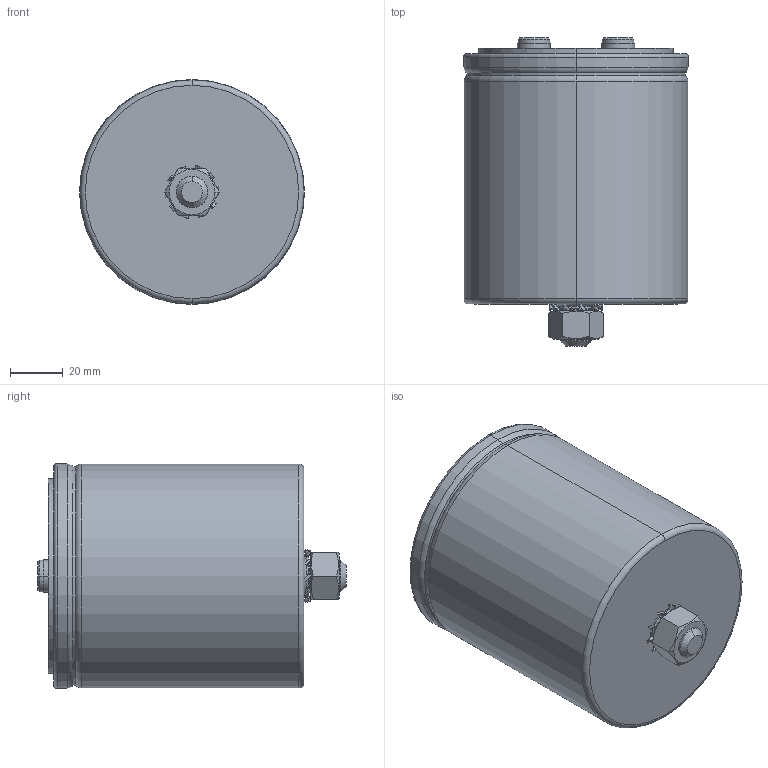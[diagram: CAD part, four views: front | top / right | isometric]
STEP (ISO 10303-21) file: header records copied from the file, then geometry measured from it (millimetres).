
FILE_DESCRIPTION (( 'STEP AP203' ), '1' );
FILE_NAME ('B25620Bx_85x95_101.STEP', '2021-07-01T01:33:06', ( '' ), ( '' ), 'SwSTEP 2.0', 'SolidWorks 2017', '' );
FILE_SCHEMA (( 'CONFIG_CONTROL_DESIGN' ));
Length unit declared in the file: millimetre
Products named in the file (1): B25620Bx_85x95_101
Bounding box: 85.4 x 117 x 85.4 mm (x, y, z)
Volume: 57179 mm3; surface area: 79833.9 mm2
Topology: 2 solids, 3 shells, 234 faces, 540 edges, 338 vertices
Faces by surface type: cylinder 85, plane 55, bspline 48, cone 30, torus 16
Entity records: 7453 total; most frequent: CARTESIAN_POINT 2221, ORIENTED_EDGE 1072, DIRECTION 1048, EDGE_CURVE 536, AXIS2_PLACEMENT_3D 423, VERTEX_POINT 338, EDGE_LOOP 266, CIRCLE 236
